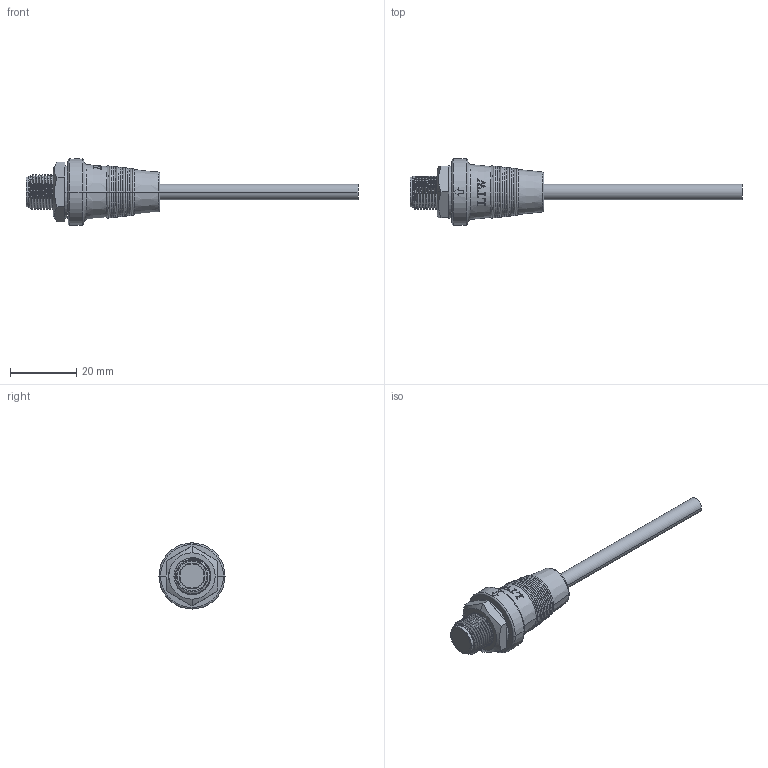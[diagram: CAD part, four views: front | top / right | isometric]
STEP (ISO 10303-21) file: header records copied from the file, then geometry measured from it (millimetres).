
FILE_DESCRIPTION((''),'2;1');
FILE_NAME('004236_ASM','2021-08-05T',('L100003'),(''),'PRO/ENGINEER BY PARAMETRIC TECHNOLOGY CORPORATION, 2017170','PRO/ENGINEER BY PARAMETRIC TECHNOLOGY CORPORATION, 2017170','');
FILE_SCHEMA(('CONFIG_CONTROL_DESIGN'));
Length unit declared in the file: millimetre
Products named in the file (11): MSBR-10; MSBR-9; MSBR-8; MSBR-7; MSBR-6; MSBR-5; MSBR-4; MSBR-3; MSBR-2; MSBR-1; 004236_ASM
Assembly tree (10 placements, depth 2):
  004236_ASM
    MSBR-10
    MSBR-9
    MSBR-8
    MSBR-7
    MSBR-6
    MSBR-5
    MSBR-4
    MSBR-3
    MSBR-2
    MSBR-1
Bounding box: 100.5 x 20 x 20 mm (x, y, z)
Volume: 9939 mm3; surface area: 6852.9 mm2
Topology: 10 solids, 10 shells, 581 faces, 1546 edges, 1004 vertices
Faces by surface type: plane 164, cylinder 114, bspline 102, extrusion 90, cone 71, torus 32, sphere 8
Entity records: 36776 total; most frequent: CARTESIAN_POINT 18815, ORIENTED_EDGE 3060, DIRECTION 2248, EDGE_CURVE 1530, VERTEX_POINT 1004, AXIS2_PLACEMENT_3D 775, VECTOR 698, PRESENTATION_STYLE_ASSIGNMENT 671
